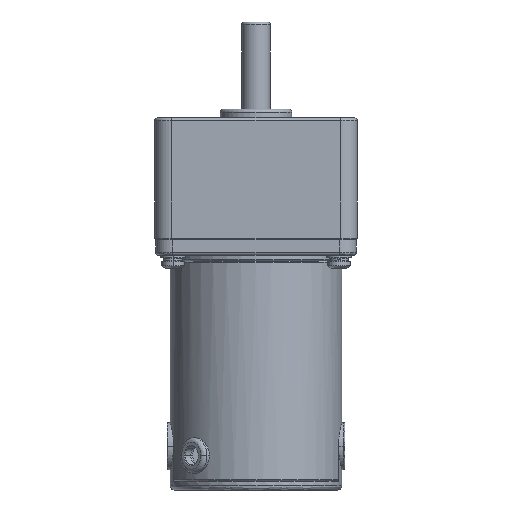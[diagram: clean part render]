
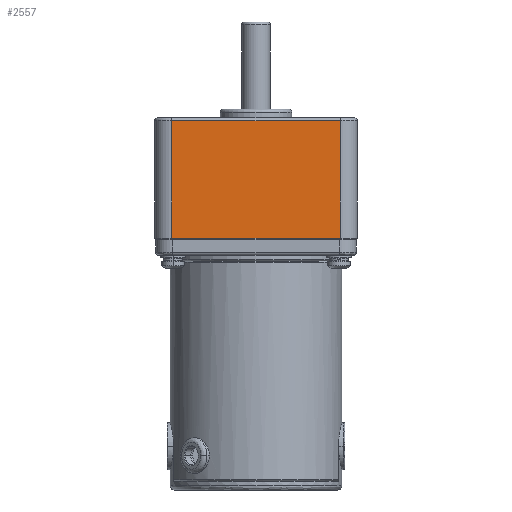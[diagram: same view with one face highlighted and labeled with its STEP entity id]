
A CAD part, front view. The second image highlights one B-rep face of the part: STEP entity #2557.
In plain terms, the highlighted planar face has unit normal (0, -1, 0).
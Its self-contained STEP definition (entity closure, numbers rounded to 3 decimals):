
#434 = DIRECTION ( 'NONE',  ( 0., 1., 0. ) ) ;
#561 = EDGE_LOOP ( 'NONE', ( #12006, #12290, #12208, #8849 ) ) ;
#563 = CARTESIAN_POINT ( 'NONE',  ( 0., -35.4, 20.5 ) ) ;
#584 = VERTEX_POINT ( 'NONE', #1145 ) ;
#852 = VECTOR ( 'NONE', #6613, 1000. ) ;
#1145 = CARTESIAN_POINT ( 'NONE',  ( 29.4, -35.4, 41. ) ) ;
#1742 = VERTEX_POINT ( 'NONE', #8284 ) ;
#2491 = VECTOR ( 'NONE', #12070, 1000. ) ;
#2557 = ADVANCED_FACE ( 'NONE', ( #10232 ), #8374, .F. ) ;
#3263 = CARTESIAN_POINT ( 'NONE',  ( 29.4, -35.4, 41.82 ) ) ;
#3596 = CARTESIAN_POINT ( 'NONE',  ( -29.4, -35.4, 0. ) ) ;
#4274 = VECTOR ( 'NONE', #10317, 1000. ) ;
#4318 = EDGE_CURVE ( 'NONE', #9342, #1742, #7312, .T. ) ;
#4469 = EDGE_CURVE ( 'NONE', #9342, #4524, #7571, .T. ) ;
#4524 = VERTEX_POINT ( 'NONE', #6740 ) ;
#5254 = CARTESIAN_POINT ( 'NONE',  ( 0., -35.4, 41. ) ) ;
#5363 = LINE ( 'NONE', #3263, #6307 ) ;
#6307 = VECTOR ( 'NONE', #11222, 1000. ) ;
#6613 = DIRECTION ( 'NONE',  ( 1., 0., 0. ) ) ;
#6740 = CARTESIAN_POINT ( 'NONE',  ( 29.4, -35.4, 0. ) ) ;
#7312 = LINE ( 'NONE', #10379, #4274 ) ;
#7571 = LINE ( 'NONE', #11468, #852 ) ;
#8277 = EDGE_CURVE ( 'NONE', #584, #4524, #5363, .T. ) ;
#8284 = CARTESIAN_POINT ( 'NONE',  ( -29.4, -35.4, 41. ) ) ;
#8374 = PLANE ( 'NONE',  #12227 ) ;
#8849 = ORIENTED_EDGE ( 'NONE', *, *, #11718, .F. ) ;
#9206 = DIRECTION ( 'NONE',  ( 0., 0., 1. ) ) ;
#9342 = VERTEX_POINT ( 'NONE', #3596 ) ;
#10232 = FACE_OUTER_BOUND ( 'NONE', #561, .T. ) ;
#10317 = DIRECTION ( 'NONE',  ( 0., 0., 1. ) ) ;
#10379 = CARTESIAN_POINT ( 'NONE',  ( -29.4, -35.4, 20.5 ) ) ;
#11222 = DIRECTION ( 'NONE',  ( 0., 0., -1. ) ) ;
#11468 = CARTESIAN_POINT ( 'NONE',  ( 0., -35.4, 0. ) ) ;
#11718 = EDGE_CURVE ( 'NONE', #1742, #584, #12260, .T. ) ;
#12006 = ORIENTED_EDGE ( 'NONE', *, *, #4318, .F. ) ;
#12070 = DIRECTION ( 'NONE',  ( 1., 0., 0. ) ) ;
#12208 = ORIENTED_EDGE ( 'NONE', *, *, #8277, .F. ) ;
#12227 = AXIS2_PLACEMENT_3D ( 'NONE', #563, #434, #9206 ) ;
#12260 = LINE ( 'NONE', #5254, #2491 ) ;
#12290 = ORIENTED_EDGE ( 'NONE', *, *, #4469, .T. ) ;
